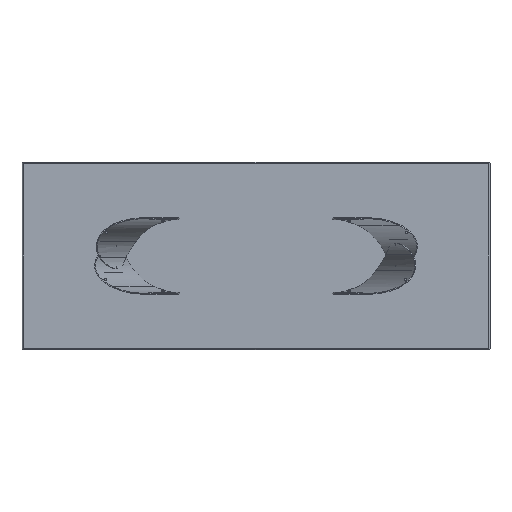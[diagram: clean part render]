
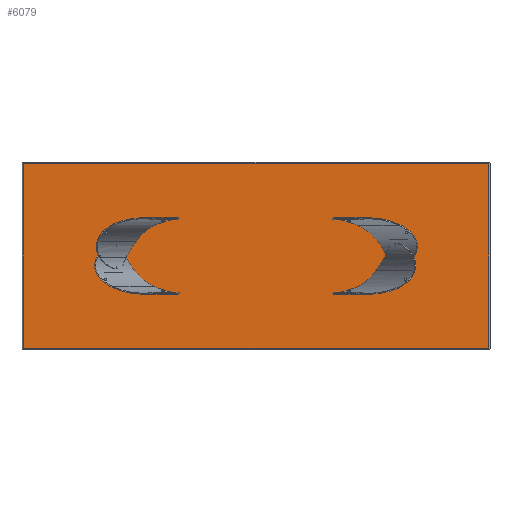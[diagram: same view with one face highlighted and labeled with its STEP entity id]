
A CAD part, front view. The second image highlights one B-rep face of the part: STEP entity #6079.
In plain terms, the highlighted planar face has unit normal (0, -1, 0).
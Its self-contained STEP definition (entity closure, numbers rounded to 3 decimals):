
#517 = CARTESIAN_POINT ( 'NONE',  ( 1492., 0., 592. ) ) ;
#845 = EDGE_CURVE ( 'NONE', #1322, #6785, #11441, .T. ) ;
#1022 = LINE ( 'NONE', #7149, #4437 ) ;
#1322 = VERTEX_POINT ( 'NONE', #7687 ) ;
#3009 = ORIENTED_EDGE ( 'NONE', *, *, #10257, .T. ) ;
#3180 = VECTOR ( 'NONE', #6402, 1000. ) ;
#3330 = CARTESIAN_POINT ( 'NONE',  ( -1492., 0., 0. ) ) ;
#4102 = DIRECTION ( 'NONE',  ( 0., 0., -1. ) ) ;
#4423 = EDGE_LOOP ( 'NONE', ( #4757, #9477, #3009, #7538 ) ) ;
#4437 = VECTOR ( 'NONE', #10066, 1000. ) ;
#4757 = ORIENTED_EDGE ( 'NONE', *, *, #845, .T. ) ;
#5274 = CARTESIAN_POINT ( 'NONE',  ( -1492., 0., -592. ) ) ;
#5549 = LINE ( 'NONE', #7494, #5643 ) ;
#5593 = DIRECTION ( 'NONE',  ( 0., 1., 0. ) ) ;
#5643 = VECTOR ( 'NONE', #7565, 1000. ) ;
#6079 = ADVANCED_FACE ( 'NONE', ( #11485 ), #12435, .F. ) ;
#6374 = VERTEX_POINT ( 'NONE', #6978 ) ;
#6402 = DIRECTION ( 'NONE',  ( 0., 0., 1. ) ) ;
#6566 = CARTESIAN_POINT ( 'NONE',  ( 0., 0., 0. ) ) ;
#6785 = VERTEX_POINT ( 'NONE', #517 ) ;
#6978 = CARTESIAN_POINT ( 'NONE',  ( -1492., 0., 592. ) ) ;
#7149 = CARTESIAN_POINT ( 'NONE',  ( 0., 0., 592. ) ) ;
#7353 = LINE ( 'NONE', #3330, #9793 ) ;
#7494 = CARTESIAN_POINT ( 'NONE',  ( 0., 0., -592. ) ) ;
#7538 = ORIENTED_EDGE ( 'NONE', *, *, #8702, .T. ) ;
#7565 = DIRECTION ( 'NONE',  ( 1., 0., 0. ) ) ;
#7687 = CARTESIAN_POINT ( 'NONE',  ( 1492., 0., -592. ) ) ;
#8702 = EDGE_CURVE ( 'NONE', #11152, #1322, #5549, .T. ) ;
#9477 = ORIENTED_EDGE ( 'NONE', *, *, #12139, .T. ) ;
#9541 = DIRECTION ( 'NONE',  ( 0., 0., 1. ) ) ;
#9793 = VECTOR ( 'NONE', #4102, 1000. ) ;
#10066 = DIRECTION ( 'NONE',  ( -1., 0., 0. ) ) ;
#10227 = CARTESIAN_POINT ( 'NONE',  ( 1492., 0., 0. ) ) ;
#10257 = EDGE_CURVE ( 'NONE', #6374, #11152, #7353, .T. ) ;
#11152 = VERTEX_POINT ( 'NONE', #5274 ) ;
#11441 = LINE ( 'NONE', #10227, #3180 ) ;
#11485 = FACE_OUTER_BOUND ( 'NONE', #4423, .T. ) ;
#12139 = EDGE_CURVE ( 'NONE', #6785, #6374, #1022, .T. ) ;
#12286 = AXIS2_PLACEMENT_3D ( 'NONE', #6566, #5593, #9541 ) ;
#12435 = PLANE ( 'NONE',  #12286 ) ;
